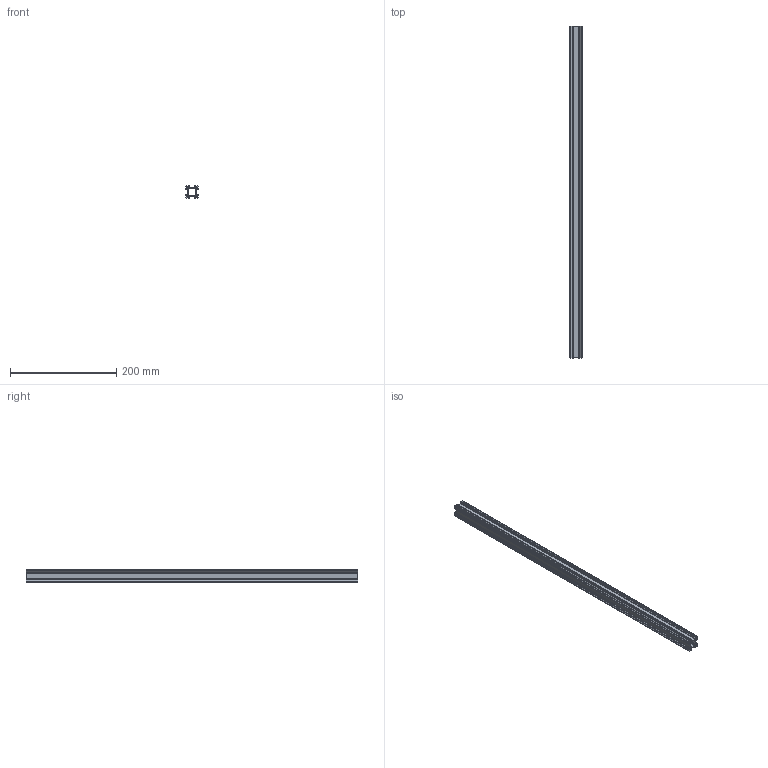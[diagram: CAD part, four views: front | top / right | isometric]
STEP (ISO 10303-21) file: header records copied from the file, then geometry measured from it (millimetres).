
FILE_DESCRIPTION (( 'STEP AP203' ), '1' );
FILE_NAME ('1109-0016-0624.STEP', '2017-05-15T21:56:41', ( '' ), ( '' ), 'SwSTEP 2.0', 'SolidWorks 2016', '' );
FILE_SCHEMA (( 'CONFIG_CONTROL_DESIGN' ));
Products named in the file (1): 1109-0016-0624
Bounding box: 24 x 624 x 24 mm (x, y, z)
Volume: 123414 mm3; surface area: 153772.4 mm2
Topology: 1 solids, 1 shells, 807 faces, 2405 edges, 1600 vertices
Faces by surface type: cylinder 683, plane 88, cone 20, bspline 16
Entity records: 53534 total; most frequent: CARTESIAN_POINT 35507, ORIENTED_EDGE 4810, DIRECTION 2779, EDGE_CURVE 2405, VERTEX_POINT 1600, AXIS2_PLACEMENT_3D 928, LINE 923, VECTOR 923
